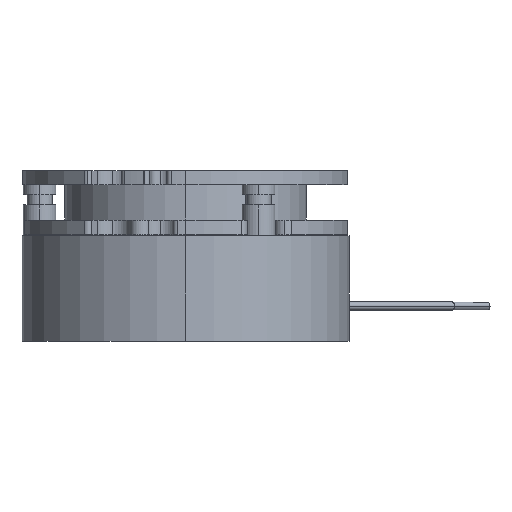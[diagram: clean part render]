
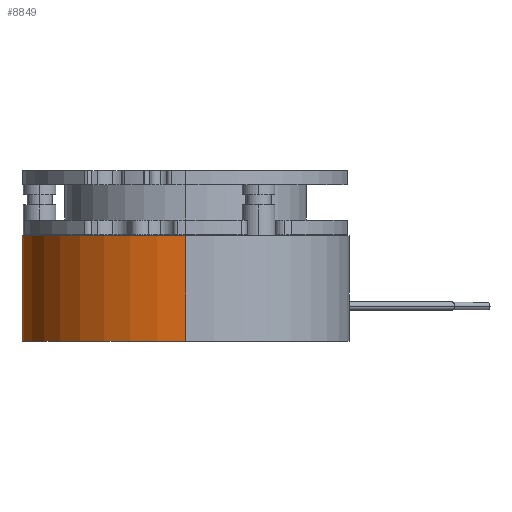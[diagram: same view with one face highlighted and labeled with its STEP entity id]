
A CAD part, left-side view. The second image highlights one B-rep face of the part: STEP entity #8849.
In plain terms, the highlighted cylindrical face has radius 32.5 mm (diameter 65 mm), a partial arc.
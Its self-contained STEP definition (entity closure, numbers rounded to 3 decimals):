
#300 = ORIENTED_EDGE ( 'NONE', *, *, #7965, .T. ) ;
#314 = ORIENTED_EDGE ( 'NONE', *, *, #7966, .F. ) ;
#341 = ORIENTED_EDGE ( 'NONE', *, *, #7963, .F. ) ;
#342 = ORIENTED_EDGE ( 'NONE', *, *, #7964, .T. ) ;
#1711 = DIRECTION ( 'NONE',  ( 0., 0., -1. ) ) ;
#1712 = DIRECTION ( 'NONE',  ( 0., 0., -1. ) ) ;
#1713 = CARTESIAN_POINT ( 'NONE',  ( 32.5, 0., 21. ) ) ;
#1714 = CARTESIAN_POINT ( 'NONE',  ( 0., 0., 21. ) ) ;
#1715 = DIRECTION ( 'NONE',  ( 0., 0., 1. ) ) ;
#1716 = DIRECTION ( 'NONE',  ( 1., 0., 0. ) ) ;
#1717 = CARTESIAN_POINT ( 'NONE',  ( -32.5, 0., 21. ) ) ;
#1720 = CARTESIAN_POINT ( 'NONE',  ( 0., 0., 0. ) ) ;
#1721 = DIRECTION ( 'NONE',  ( 0., 0., 1. ) ) ;
#1722 = DIRECTION ( 'NONE',  ( 1., 0., 0. ) ) ;
#2352 = CARTESIAN_POINT ( 'NONE',  ( 0., 0., 21. ) ) ;
#2353 = DIRECTION ( 'NONE',  ( 0., 0., -1. ) ) ;
#2361 = DIRECTION ( 'NONE',  ( -1., 0., 0. ) ) ;
#4418 = AXIS2_PLACEMENT_3D ( 'NONE', #2352, #2353, #2361 ) ;
#5156 = CARTESIAN_POINT ( 'NONE',  ( 32.5, 0., 21. ) ) ;
#5157 = CARTESIAN_POINT ( 'NONE',  ( -32.5, 0., 21. ) ) ;
#5162 = CARTESIAN_POINT ( 'NONE',  ( 32.5, 0., 0. ) ) ;
#5163 = CARTESIAN_POINT ( 'NONE',  ( -32.5, 0., 0. ) ) ;
#6548 = VERTEX_POINT ( 'NONE', #5156 ) ;
#6550 = VERTEX_POINT ( 'NONE', #5157 ) ;
#6560 = VERTEX_POINT ( 'NONE', #5162 ) ;
#6562 = VERTEX_POINT ( 'NONE', #5163 ) ;
#7292 = FACE_OUTER_BOUND ( 'NONE', #13661, .T. ) ;
#7319 = CYLINDRICAL_SURFACE ( 'NONE', #4418, 32.5 ) ;
#7963 = EDGE_CURVE ( 'NONE', #6548, #6550, #12349, .T. ) ;
#7964 = EDGE_CURVE ( 'NONE', #6548, #6560, #12352, .T. ) ;
#7965 = EDGE_CURVE ( 'NONE', #6560, #6562, #12354, .T. ) ;
#7966 = EDGE_CURVE ( 'NONE', #6550, #6562, #12357, .T. ) ;
#8849 = ADVANCED_FACE ( 'NONE', ( #7292 ), #7319, .T. ) ;
#12160 = AXIS2_PLACEMENT_3D ( 'NONE', #1714, #1715, #1716 ) ;
#12161 = AXIS2_PLACEMENT_3D ( 'NONE', #1720, #1721, #1722 ) ;
#12349 = CIRCLE ( 'NONE', #12160, 32.5 ) ;
#12352 = LINE ( 'NONE', #1713, #12356 ) ;
#12354 = CIRCLE ( 'NONE', #12161, 32.5 ) ;
#12356 = VECTOR ( 'NONE', #1711, 1000. ) ;
#12357 = LINE ( 'NONE', #1717, #12359 ) ;
#12359 = VECTOR ( 'NONE', #1712, 1000. ) ;
#13661 = EDGE_LOOP ( 'NONE', ( #341, #342, #300, #314 ) ) ;
